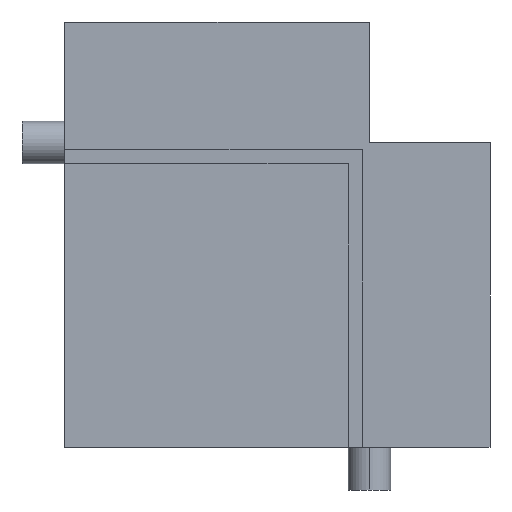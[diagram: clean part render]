
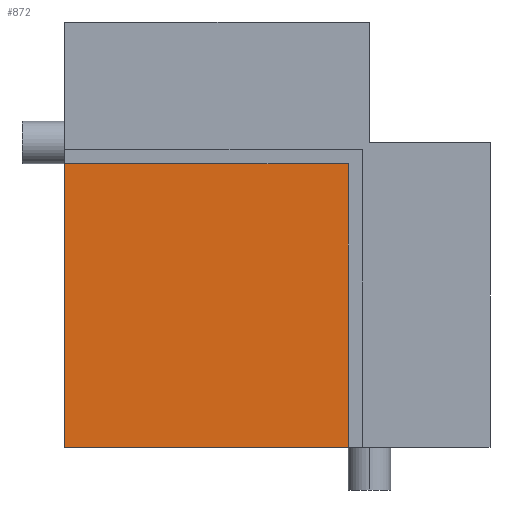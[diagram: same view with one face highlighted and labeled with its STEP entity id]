
A CAD part, front view. The second image highlights one B-rep face of the part: STEP entity #872.
In plain terms, the highlighted planar face has unit normal (0, -1, 0).
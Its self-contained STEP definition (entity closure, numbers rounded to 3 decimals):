
#213=DIRECTION('',(0.,0.,1.));
#214=VECTOR('',#213,20.);
#215=CARTESIAN_POINT('',(0.,-5.,0.));
#216=LINE('',#215,#214);
#217=DIRECTION('',(1.,0.,0.));
#218=VECTOR('',#217,20.);
#219=CARTESIAN_POINT('',(0.,-5.,20.));
#220=LINE('',#219,#218);
#221=DIRECTION('',(0.,0.,-1.));
#222=VECTOR('',#221,20.);
#223=CARTESIAN_POINT('',(20.,-5.,20.));
#224=LINE('',#223,#222);
#225=DIRECTION('',(-1.,0.,0.));
#226=VECTOR('',#225,20.);
#227=CARTESIAN_POINT('',(20.,-5.,0.));
#228=LINE('',#227,#226);
#479=CARTESIAN_POINT('',(0.,-5.,0.));
#480=CARTESIAN_POINT('',(0.,-5.,20.));
#481=VERTEX_POINT('',#479);
#482=VERTEX_POINT('',#480);
#483=CARTESIAN_POINT('',(20.,-5.,20.));
#484=VERTEX_POINT('',#483);
#485=CARTESIAN_POINT('',(20.,-5.,0.));
#486=VERTEX_POINT('',#485);
#861=CARTESIAN_POINT('',(0.,-5.,0.));
#862=DIRECTION('',(0.,1.,0.));
#863=DIRECTION('',(1.,0.,0.));
#864=AXIS2_PLACEMENT_3D('',#861,#862,#863);
#865=PLANE('',#864);
#866=ORIENTED_EDGE('',*,*,#755,.T.);
#867=ORIENTED_EDGE('',*,*,#829,.T.);
#868=ORIENTED_EDGE('',*,*,#801,.T.);
#869=ORIENTED_EDGE('',*,*,#680,.T.);
#870=EDGE_LOOP('',(#866,#867,#868,#869));
#871=FACE_OUTER_BOUND('',#870,.F.);
#872=ADVANCED_FACE('',(#871),#865,.F.);
#680=EDGE_CURVE('',#486,#481,#228,.T.);
#755=EDGE_CURVE('',#481,#482,#216,.T.);
#801=EDGE_CURVE('',#484,#486,#224,.T.);
#829=EDGE_CURVE('',#482,#484,#220,.T.);
